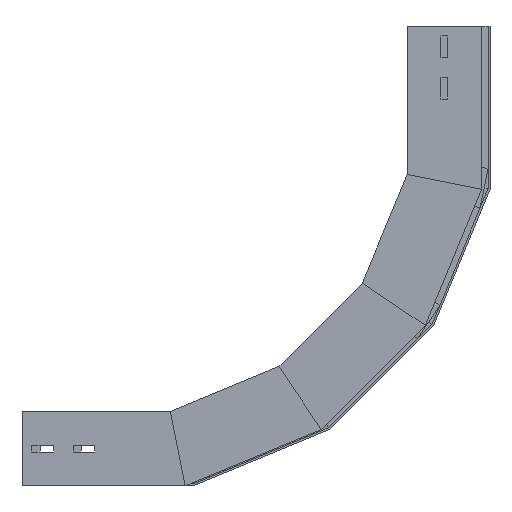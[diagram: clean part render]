
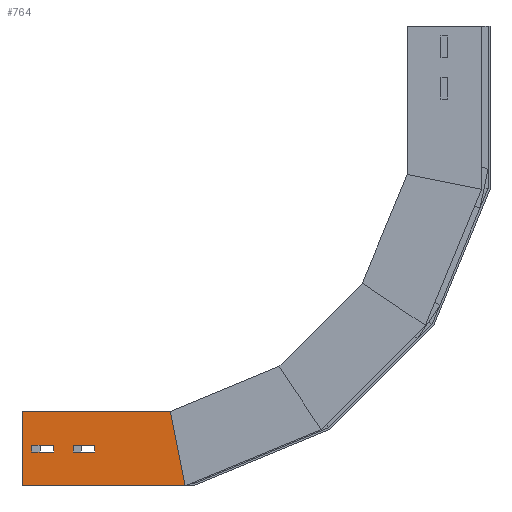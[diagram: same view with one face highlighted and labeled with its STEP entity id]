
A CAD part, left-side view. The second image highlights one B-rep face of the part: STEP entity #764.
In plain terms, the highlighted planar face has unit normal (-1, 0, 0) as drawn and (1, 0, 0) by its records, which use the part's own axes.
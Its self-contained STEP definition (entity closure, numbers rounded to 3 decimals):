
#3 = ORIENTED_EDGE ( 'NONE', *, *, #277, .T. ) ;
#12 = VECTOR ( 'NONE', #1853, 1000. ) ;
#18 = ORIENTED_EDGE ( 'NONE', *, *, #1258, .T. ) ;
#23 = DIRECTION ( 'NONE',  ( 0., 0., -1. ) ) ;
#34 = LINE ( 'NONE', #1486, #12 ) ;
#58 = CARTESIAN_POINT ( 'NONE',  ( 0., 0., 0. ) ) ;
#110 = CARTESIAN_POINT ( 'NONE',  ( 0., 0., 0. ) ) ;
#115 = ORIENTED_EDGE ( 'NONE', *, *, #493, .T. ) ;
#155 = VERTEX_POINT ( 'NONE', #1662 ) ;
#201 = DIRECTION ( 'NONE',  ( 0., -1., 0. ) ) ;
#236 = ORIENTED_EDGE ( 'NONE', *, *, #1413, .F. ) ;
#237 = DIRECTION ( 'NONE',  ( 0., -0.981, -0.195 ) ) ;
#262 = CARTESIAN_POINT ( 'NONE',  ( 0., 41., -31.835 ) ) ;
#264 = ORIENTED_EDGE ( 'NONE', *, *, #739, .T. ) ;
#274 = CARTESIAN_POINT ( 'NONE',  ( 0., 31.495, -158.335 ) ) ;
#277 = EDGE_CURVE ( 'NONE', #1129, #1346, #1858, .T. ) ;
#283 = VECTOR ( 'NONE', #636, 1000. ) ;
#286 = VECTOR ( 'NONE', #237, 1000. ) ;
#329 = LINE ( 'NONE', #1512, #283 ) ;
#346 = EDGE_CURVE ( 'NONE', #1282, #1338, #1066, .T. ) ;
#389 = VERTEX_POINT ( 'NONE', #1356 ) ;
#402 = VERTEX_POINT ( 'NONE', #1624 ) ;
#403 = DIRECTION ( 'NONE',  ( 0., 0., -1. ) ) ;
#422 = CARTESIAN_POINT ( 'NONE',  ( 0., 75., -149.682 ) ) ;
#463 = VERTEX_POINT ( 'NONE', #1671 ) ;
#466 = EDGE_LOOP ( 'NONE', ( #264, #115, #3, #18 ) ) ;
#478 = ORIENTED_EDGE ( 'NONE', *, *, #346, .T. ) ;
#493 = EDGE_CURVE ( 'NONE', #504, #1129, #1084, .T. ) ;
#504 = VERTEX_POINT ( 'NONE', #768 ) ;
#517 = VECTOR ( 'NONE', #1839, 1000. ) ;
#525 = LINE ( 'NONE', #533, #582 ) ;
#533 = CARTESIAN_POINT ( 'NONE',  ( 0., 41., -9.835 ) ) ;
#575 = VECTOR ( 'NONE', #1075, 1000. ) ;
#582 = VECTOR ( 'NONE', #403, 1000. ) ;
#628 = VECTOR ( 'NONE', #912, 1000. ) ;
#636 = DIRECTION ( 'NONE',  ( 0., 0., 1. ) ) ;
#657 = DIRECTION ( 'NONE',  ( 0., 0., -1. ) ) ;
#685 = VECTOR ( 'NONE', #201, 1000. ) ;
#706 = FACE_BOUND ( 'NONE', #466, .T. ) ;
#714 = CARTESIAN_POINT ( 'NONE',  ( 0., 75., 0. ) ) ;
#739 = EDGE_CURVE ( 'NONE', #155, #504, #988, .T. ) ;
#752 = ORIENTED_EDGE ( 'NONE', *, *, #1629, .T. ) ;
#764 = ADVANCED_FACE ( 'NONE', ( #706, #1406, #1700 ), #1445, .F. ) ;
#768 = CARTESIAN_POINT ( 'NONE',  ( 0., 41., -51.505 ) ) ;
#786 = VERTEX_POINT ( 'NONE', #422 ) ;
#807 = VECTOR ( 'NONE', #23, 1000. ) ;
#812 = DIRECTION ( 'NONE',  ( 0., 1., 0. ) ) ;
#822 = DIRECTION ( 'NONE',  ( -1., 0., 0. ) ) ;
#883 = LINE ( 'NONE', #714, #807 ) ;
#912 = DIRECTION ( 'NONE',  ( 0., 1., 0. ) ) ;
#923 = EDGE_CURVE ( 'NONE', #1115, #389, #955, .T. ) ;
#947 = CARTESIAN_POINT ( 'NONE',  ( 0., 34., -73.505 ) ) ;
#955 = LINE ( 'NONE', #1688, #1613 ) ;
#970 = CARTESIAN_POINT ( 'NONE',  ( 0., 41., -51.505 ) ) ;
#988 = LINE ( 'NONE', #1880, #1582 ) ;
#1066 = LINE ( 'NONE', #1633, #685 ) ;
#1075 = DIRECTION ( 'NONE',  ( 0., 0., -1. ) ) ;
#1084 = LINE ( 'NONE', #970, #575 ) ;
#1095 = CARTESIAN_POINT ( 'NONE',  ( 0., 41., -73.505 ) ) ;
#1102 = DIRECTION ( 'NONE',  ( 0., 0., 1. ) ) ;
#1103 = EDGE_CURVE ( 'NONE', #402, #1872, #34, .T. ) ;
#1115 = VERTEX_POINT ( 'NONE', #58 ) ;
#1129 = VERTEX_POINT ( 'NONE', #1095 ) ;
#1179 = EDGE_LOOP ( 'NONE', ( #236, #1325, #1474, #1695 ) ) ;
#1200 = LINE ( 'NONE', #1650, #628 ) ;
#1224 = ORIENTED_EDGE ( 'NONE', *, *, #1103, .T. ) ;
#1252 = DIRECTION ( 'NONE',  ( 0., 0., 1. ) ) ;
#1258 = EDGE_CURVE ( 'NONE', #1346, #155, #1390, .T. ) ;
#1282 = VERTEX_POINT ( 'NONE', #262 ) ;
#1325 = ORIENTED_EDGE ( 'NONE', *, *, #1538, .F. ) ;
#1335 = ORIENTED_EDGE ( 'NONE', *, *, #1479, .T. ) ;
#1338 = VERTEX_POINT ( 'NONE', #1732 ) ;
#1346 = VERTEX_POINT ( 'NONE', #947 ) ;
#1356 = CARTESIAN_POINT ( 'NONE',  ( 0., 0., -164.6 ) ) ;
#1390 = LINE ( 'NONE', #1844, #1463 ) ;
#1406 = FACE_OUTER_BOUND ( 'NONE', #1179, .T. ) ;
#1413 = EDGE_CURVE ( 'NONE', #463, #786, #883, .T. ) ;
#1417 = CARTESIAN_POINT ( 'NONE',  ( 0., 41., -73.505 ) ) ;
#1445 = PLANE ( 'NONE',  #1488 ) ;
#1463 = VECTOR ( 'NONE', #1102, 1000. ) ;
#1474 = ORIENTED_EDGE ( 'NONE', *, *, #923, .T. ) ;
#1479 = EDGE_CURVE ( 'NONE', #1338, #402, #329, .T. ) ;
#1486 = CARTESIAN_POINT ( 'NONE',  ( 0., 41., -9.835 ) ) ;
#1488 = AXIS2_PLACEMENT_3D ( 'NONE', #110, #822, #1252 ) ;
#1498 = CARTESIAN_POINT ( 'NONE',  ( 0., 41., -9.835 ) ) ;
#1512 = CARTESIAN_POINT ( 'NONE',  ( 0., 34., -9.835 ) ) ;
#1534 = LINE ( 'NONE', #274, #286 ) ;
#1538 = EDGE_CURVE ( 'NONE', #1115, #463, #1200, .T. ) ;
#1582 = VECTOR ( 'NONE', #812, 1000. ) ;
#1613 = VECTOR ( 'NONE', #657, 1000. ) ;
#1624 = CARTESIAN_POINT ( 'NONE',  ( 0., 34., -9.835 ) ) ;
#1629 = EDGE_CURVE ( 'NONE', #1872, #1282, #525, .T. ) ;
#1633 = CARTESIAN_POINT ( 'NONE',  ( 0., 41., -31.835 ) ) ;
#1650 = CARTESIAN_POINT ( 'NONE',  ( 0., 0., 0. ) ) ;
#1662 = CARTESIAN_POINT ( 'NONE',  ( 0., 34., -51.505 ) ) ;
#1671 = CARTESIAN_POINT ( 'NONE',  ( 0., 75., 0. ) ) ;
#1688 = CARTESIAN_POINT ( 'NONE',  ( 0., 0., 0. ) ) ;
#1695 = ORIENTED_EDGE ( 'NONE', *, *, #1724, .F. ) ;
#1700 = FACE_BOUND ( 'NONE', #1748, .T. ) ;
#1724 = EDGE_CURVE ( 'NONE', #786, #389, #1534, .T. ) ;
#1732 = CARTESIAN_POINT ( 'NONE',  ( 0., 34., -31.835 ) ) ;
#1748 = EDGE_LOOP ( 'NONE', ( #1224, #752, #478, #1335 ) ) ;
#1839 = DIRECTION ( 'NONE',  ( 0., -1., 0. ) ) ;
#1844 = CARTESIAN_POINT ( 'NONE',  ( 0., 34., -51.505 ) ) ;
#1853 = DIRECTION ( 'NONE',  ( 0., 1., 0. ) ) ;
#1858 = LINE ( 'NONE', #1417, #517 ) ;
#1872 = VERTEX_POINT ( 'NONE', #1498 ) ;
#1880 = CARTESIAN_POINT ( 'NONE',  ( 0., 41., -51.505 ) ) ;
